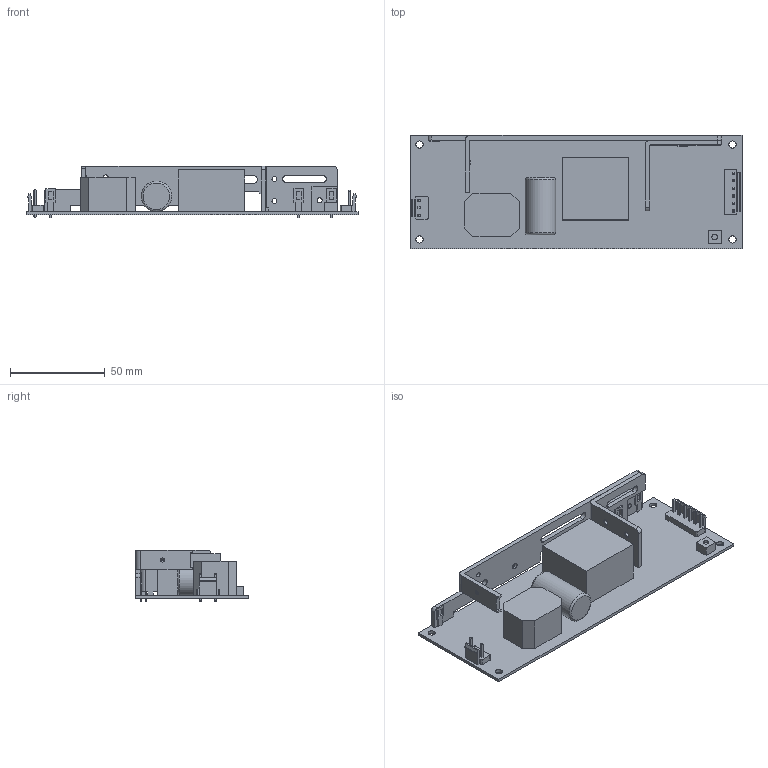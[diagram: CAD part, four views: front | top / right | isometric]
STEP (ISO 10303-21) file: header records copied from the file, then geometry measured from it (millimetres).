
FILE_DESCRIPTION((''),'2;1');
FILE_NAME('W:\mechanical\機構工程圖\3D圖檔\3D Outline-2020\已完成待審核\ELP-75.stp','2020-06-01T11:46:48',('shirley'),(''),'Autodesk Inventor 2010','Autodesk Inventor 2010','');
FILE_SCHEMA(('AUTOMOTIVE_DESIGN { 1 0 10303 214 1 1 1 1 }'));
Length unit declared in the file: millimetre
Products named in the file (17): ELP-75; HS1; pin.1; p2_1; HS2; p2_2; pin; PCB; JS1120-03N2; CN1; PIN_CPY; PIN_CPY_CPY; JS-1120-06; C5; VR; T2; T1
Assembly tree (17 placements, depth 3):
  ELP-75
    HS1
      pin.1  x2
      p2_1
    HS2
      p2_2
      pin
    PCB
    JS1120-03N2
      CN1
      PIN_CPY
      PIN_CPY_CPY
    JS-1120-06
    C5
    VR
    T2
    T1
Bounding box: 175 x 60 x 27.4 mm (x, y, z)
Volume: 71207 mm3; surface area: 44836.3 mm2
Topology: 14 solids, 14 shells, 311 faces, 1060 edges, 1034 vertices
Faces by surface type: plane 231, cylinder 55, bspline 12, cone 11, torus 2
Full cylindrical faces by diameter (mm): 2.6 x6, 3 x1, 3.4 x3, 3.8 x4, 16 x1
Entity records: 13505 total; most frequent: CARTESIAN_POINT 3410, DIRECTION 1764, ORIENTED_EDGE 1458, VECTOR 780, LINE 780, EDGE_CURVE 729, VERTEX_POINT 499, AXIS2_PLACEMENT_3D 492
